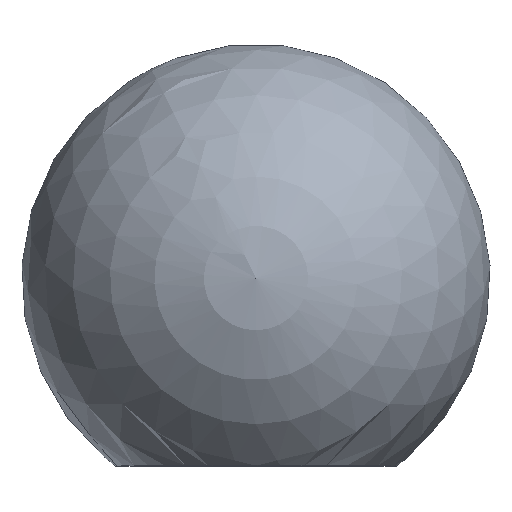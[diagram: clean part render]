
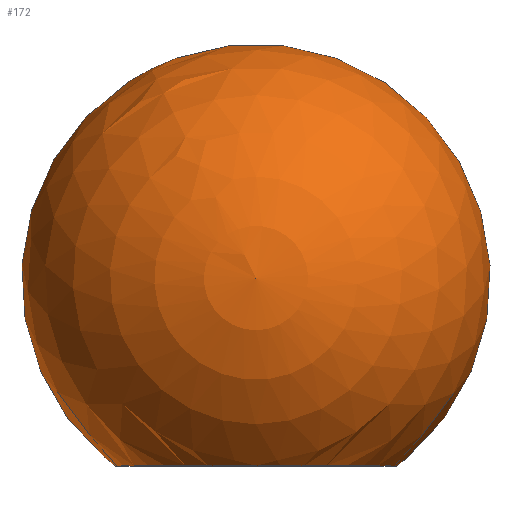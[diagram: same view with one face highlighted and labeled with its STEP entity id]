
A CAD part, top view. The second image highlights one B-rep face of the part: STEP entity #172.
In plain terms, the highlighted spherical face has radius 12.5 mm.
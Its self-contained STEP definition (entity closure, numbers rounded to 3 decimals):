
#6 = CARTESIAN_POINT ( 'NONE',  ( 0., 0., 0. ) ) ;
#7 = DIRECTION ( 'NONE',  ( 0., 0., -1. ) ) ;
#21 = SPHERICAL_SURFACE ( 'NONE', #151, 12.5 ) ;
#27 = FACE_OUTER_BOUND ( 'NONE', #34, .T. ) ;
#28 = CARTESIAN_POINT ( 'NONE',  ( 0., 10., 0. ) ) ;
#30 = DIRECTION ( 'NONE',  ( 0., 0., 1. ) ) ;
#34 = EDGE_LOOP ( 'NONE', ( #139 ) ) ;
#40 = VERTEX_POINT ( 'NONE', #56 ) ;
#48 = CIRCLE ( 'NONE', #140, 7.5 ) ;
#56 = CARTESIAN_POINT ( 'NONE',  ( 0., 0., -7.5 ) ) ;
#139 = ORIENTED_EDGE ( 'NONE', *, *, #163, .F. ) ;
#140 = AXIS2_PLACEMENT_3D ( 'NONE', #6, #152, #7 ) ;
#151 = AXIS2_PLACEMENT_3D ( 'NONE', #28, #30, #173 ) ;
#152 = DIRECTION ( 'NONE',  ( 0., -1., 0. ) ) ;
#163 = EDGE_CURVE ( 'NONE', #40, #40, #48, .T. ) ;
#172 = ADVANCED_FACE ( 'NONE', ( #27 ), #21, .T. ) ;
#173 = DIRECTION ( 'NONE',  ( 1., 0., 0. ) ) ;
